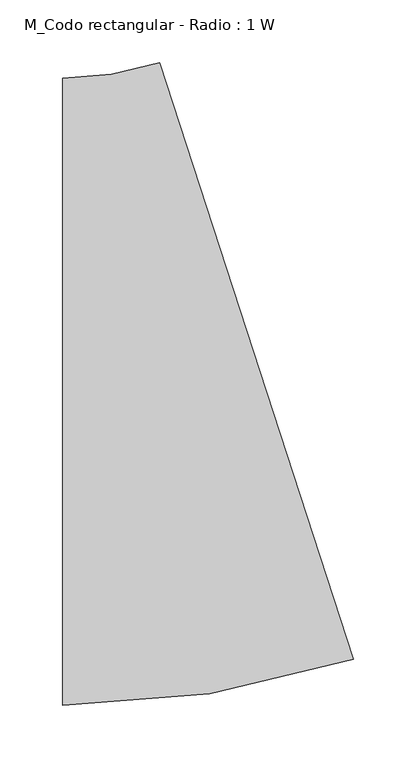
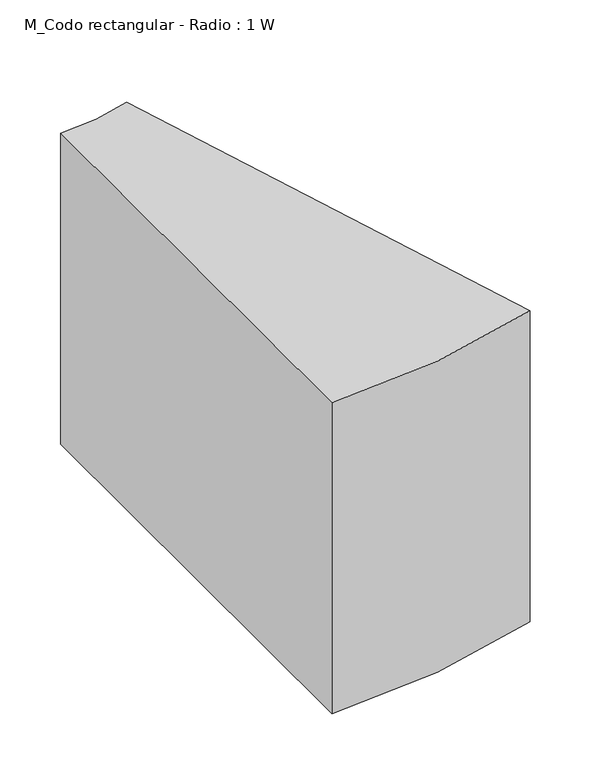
"""IFC4 building model written with IfcOpenShell, lengths in millimetres: duct fitting geometry, M_Codo rectangular - Radio : 1 W."""

from ifc_helpers import new_model, si_unit, point, frame, frame_2d, origin, place, context, project, spatial, polyline, circle_curve, trimmed, segment, composite_curve, outline, extrude, source, transform, mapped, element, save


def m_codo_rectangular_radio_1_w_f911a673(model_context):
    return source(origin(), model_context, "Body", "SweptSolid", [
        extrude(outline(composite_curve([segment(trimmed(circle_curve(frame_2d((-79.2534349, 500.0)), 750.0), [point((152.679683, -213.2370075))], [point((-79.2534349, -250.0))], False, "CARTESIAN"), True, "CONTINUOUS"), segment(polyline([(-79.2534349, -250.0), (-79.2534349, 250.0)]), True, "CONTINUOUS"), segment(trimmed(circle_curve(frame_2d((-79.2534349, 500.0)), 250.0), [point((-79.2534349, 250.0))], [point((-1.9423956, 262.2543308))], True, "CARTESIAN"), True, "CONTINUOUS"), segment(polyline([(-1.9423956, 262.2543308), (152.679683, -213.2370075)]), True, "CONTINUOUS")], self_intersect=False)), frame((0.0, 0.0, -175.0), z_axis=(0.0, 0.0, 1.0), x_axis=(1.0, 0.0, 0.0)), (0.0, 0.0, 1.0), 350.0),
    ])


if __name__ == "__main__":
    model = new_model("IFC4")
    model_context = context("Model", 3, world=origin())
    ifc_project = project(units=[si_unit("LENGTHUNIT", "METRE", prefix="MILLI")], contexts=[model_context])
    site = spatial("IfcSite", under=ifc_project)
    building = spatial("IfcBuilding", under=site)
    placement = place(None, origin())
    m_codo_rectangular_radio_1_w_shape = m_codo_rectangular_radio_1_w_f911a673(model_context)
    element("IfcDuctFitting", 1, ObjectType="M_Codo rectangular - Radio : 1 W", at=placement, inside=building, context=model_context, shape_type="MappedRepresentation", body=[
        mapped(m_codo_rectangular_radio_1_w_shape, transform((0.0, 0.0, 0.0), x_axis=(1.0, 0.0, 0.0), y_axis=(0.0, 1.0, 0.0), z_axis=(0.0, 0.0, 1.0))),
    ])
    save(model, "model.ifc")
